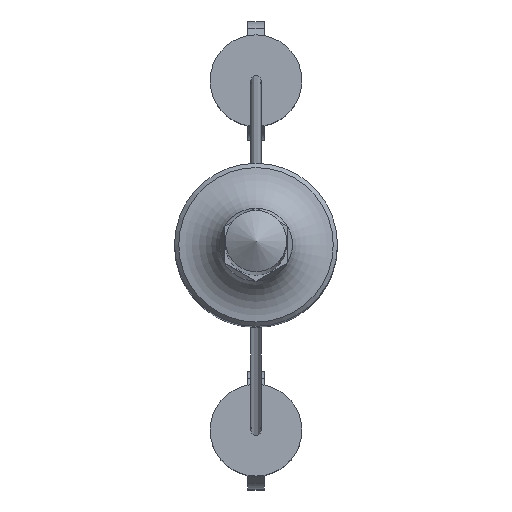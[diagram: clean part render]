
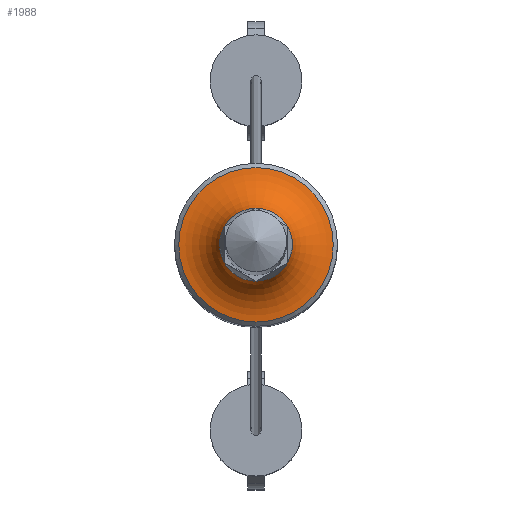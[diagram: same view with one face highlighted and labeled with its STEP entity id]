
A CAD part, top view. The second image highlights one B-rep face of the part: STEP entity #1988.
In plain terms, the highlighted toroidal (fillet/blend) face has major radius 4 mm and minor radius 2.378 mm.
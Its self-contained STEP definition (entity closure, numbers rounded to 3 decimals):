
#33 = CARTESIAN_POINT ( 'NONE',  ( 1.161, -1.371, -3.5 ) ) ;
#58 = CARTESIAN_POINT ( 'NONE',  ( -1.033, -1.47, -3.5 ) ) ;
#86 = CARTESIAN_POINT ( 'NONE',  ( 0.304, -1.771, -3.5 ) ) ;
#106 = CARTESIAN_POINT ( 'NONE',  ( 0.607, 1.691, -3.5 ) ) ;
#135 = AXIS2_PLACEMENT_3D ( 'NONE', #2228, #2425, #796 ) ;
#168 = CARTESIAN_POINT ( 'NONE',  ( 1.55, 0.895, -3.5 ) ) ;
#245 = CARTESIAN_POINT ( 'NONE',  ( 1.55, -0.895, -3.5 ) ) ;
#267 = CARTESIAN_POINT ( 'NONE',  ( 1.033, -1.47, -3.5 ) ) ;
#348 = DIRECTION ( 'NONE',  ( 0., 0., 1. ) ) ;
#361 = CARTESIAN_POINT ( 'NONE',  ( 1.55, 0.895, -3.5 ) ) ;
#374 = CARTESIAN_POINT ( 'NONE',  ( 1.686, 0.623, -3.5 ) ) ;
#380 = EDGE_CURVE ( 'NONE', #1840, #1840, #455, .T. ) ;
#409 = CARTESIAN_POINT ( 'NONE',  ( -1.55, 0.895, -3.5 ) ) ;
#430 = CARTESIAN_POINT ( 'NONE',  ( -1.79, -0.16, -3.5 ) ) ;
#431 = VERTEX_POINT ( 'NONE', #1417 ) ;
#440 = ORIENTED_EDGE ( 'NONE', *, *, #380, .T. ) ;
#455 = CIRCLE ( 'NONE', #960, 3.791 ) ;
#460 = CARTESIAN_POINT ( 'NONE',  ( 0.757, -1.63, -3.5 ) ) ;
#473 = CARTESIAN_POINT ( 'NONE',  ( -1.382, -1.148, -3.5 ) ) ;
#489 = CARTESIAN_POINT ( 'NONE',  ( -1.55, -0.895, -3.5 ) ) ;
#499 = B_SPLINE_CURVE_WITH_KNOTS ( 'NONE', 3,
 ( #361, #2040, #2645, #1634, #553, #2055, #106, #1375, #2239, #1432 ),
 .UNSPECIFIED., .F., .F.,
 ( 4, 2, 2, 2, 4 ),
 ( 0., 0.25, 0.5, 0.75, 1. ),
 .UNSPECIFIED. ) ;
#527 = FACE_OUTER_BOUND ( 'NONE', #868, .T. ) ;
#553 = CARTESIAN_POINT ( 'NONE',  ( 1.033, 1.47, -3.5 ) ) ;
#617 = EDGE_CURVE ( 'NONE', #431, #1838, #814, .T. ) ;
#623 = CARTESIAN_POINT ( 'NONE',  ( -1.686, -0.623, -3.5 ) ) ;
#629 = CARTESIAN_POINT ( 'NONE',  ( 1.625, -0.766, -3.5 ) ) ;
#660 = CARTESIAN_POINT ( 'NONE',  ( 0., 1.79, -3.5 ) ) ;
#675 = CARTESIAN_POINT ( 'NONE',  ( 1.382, -1.148, -3.5 ) ) ;
#686 = CARTESIAN_POINT ( 'NONE',  ( -1.476, -1.024, -3.5 ) ) ;
#690 = CARTESIAN_POINT ( 'NONE',  ( 0., -1.79, -3.5 ) ) ;
#697 = B_SPLINE_CURVE_WITH_KNOTS ( 'NONE', 3,
 ( #1670, #2516, #2545, #1477, #2322, #1007, #2296, #1459, #2713, #409 ),
 .UNSPECIFIED., .F., .F.,
 ( 4, 2, 2, 2, 4 ),
 ( 0., 0.25, 0.5, 0.75, 1. ),
 .UNSPECIFIED. ) ;
#704 = CARTESIAN_POINT ( 'NONE',  ( 1.55, 0.895, -3.5 ) ) ;
#765 = ORIENTED_EDGE ( 'NONE', *, *, #2336, .F. ) ;
#775 = DIRECTION ( 'NONE',  ( 1., 0., 0. ) ) ;
#796 = DIRECTION ( 'NONE',  ( 1., 0., 0. ) ) ;
#802 = CARTESIAN_POINT ( 'NONE',  ( -1.55, 0.895, -3.5 ) ) ;
#814 = B_SPLINE_CURVE_WITH_KNOTS ( 'NONE', 3,
 ( #690, #2586, #86, #1152, #460, #267, #33, #675, #2179, #1115 ),
 .UNSPECIFIED., .F., .F.,
 ( 4, 2, 2, 2, 4 ),
 ( 0., 0.25, 0.5, 0.75, 1. ),
 .UNSPECIFIED. ) ;
#817 = CARTESIAN_POINT ( 'NONE',  ( -1.79, 0.16, -3.5 ) ) ;
#824 = CARTESIAN_POINT ( 'NONE',  ( 1.79, -0.16, -3.5 ) ) ;
#853 = CARTESIAN_POINT ( 'NONE',  ( 1.686, -0.623, -3.5 ) ) ;
#868 = EDGE_LOOP ( 'NONE', ( #2074, #765, #2685, #1205, #2139, #1802 ) ) ;
#960 = AXIS2_PLACEMENT_3D ( 'NONE', #2293, #348, #775 ) ;
#1007 = CARTESIAN_POINT ( 'NONE',  ( -1.033, 1.47, -3.5 ) ) ;
#1035 = VERTEX_POINT ( 'NONE', #704 ) ;
#1045 = CARTESIAN_POINT ( 'NONE',  ( -1.625, 0.766, -3.5 ) ) ;
#1098 = CARTESIAN_POINT ( 'NONE',  ( -0.757, -1.63, -3.5 ) ) ;
#1115 = CARTESIAN_POINT ( 'NONE',  ( 1.55, -0.895, -3.5 ) ) ;
#1125 = CARTESIAN_POINT ( 'NONE',  ( -1.55, 0.895, -3.5 ) ) ;
#1128 = CARTESIAN_POINT ( 'NONE',  ( 0., -1.79, -3.5 ) ) ;
#1152 = CARTESIAN_POINT ( 'NONE',  ( 0.607, -1.691, -3.5 ) ) ;
#1205 = ORIENTED_EDGE ( 'NONE', *, *, #2180, .F. ) ;
#1259 = CARTESIAN_POINT ( 'NONE',  ( -1.768, -0.32, -3.5 ) ) ;
#1273 = CARTESIAN_POINT ( 'NONE',  ( 1.79, 0.16, -3.5 ) ) ;
#1277 = CARTESIAN_POINT ( 'NONE',  ( -1.55, -0.895, -3.5 ) ) ;
#1365 = B_SPLINE_CURVE_WITH_KNOTS ( 'NONE', 3,
 ( #802, #1045, #1906, #2294, #817, #430, #1259, #623, #2500, #2332 ),
 .UNSPECIFIED., .F., .F.,
 ( 4, 2, 2, 2, 4 ),
 ( 0., 0.25, 0.5, 0.75, 1. ),
 .UNSPECIFIED. ) ;
#1375 = CARTESIAN_POINT ( 'NONE',  ( 0.304, 1.771, -3.5 ) ) ;
#1393 = CARTESIAN_POINT ( 'NONE',  ( 3.791, 0., -4.991 ) ) ;
#1404 = B_SPLINE_CURVE_WITH_KNOTS ( 'NONE', 3,
 ( #245, #629, #853, #1952, #824, #1273, #1682, #374, #2751, #168 ),
 .UNSPECIFIED., .F., .F.,
 ( 4, 2, 2, 2, 4 ),
 ( 0., 0.25, 0.5, 0.75, 1. ),
 .UNSPECIFIED. ) ;
#1417 = CARTESIAN_POINT ( 'NONE',  ( 0., -1.79, -3.5 ) ) ;
#1432 = CARTESIAN_POINT ( 'NONE',  ( 0., 1.79, -3.5 ) ) ;
#1459 = CARTESIAN_POINT ( 'NONE',  ( -1.382, 1.148, -3.5 ) ) ;
#1477 = CARTESIAN_POINT ( 'NONE',  ( -0.607, 1.691, -3.5 ) ) ;
#1486 = VERTEX_POINT ( 'NONE', #1125 ) ;
#1546 = CARTESIAN_POINT ( 'NONE',  ( 1.55, -0.895, -3.5 ) ) ;
#1634 = CARTESIAN_POINT ( 'NONE',  ( 1.161, 1.371, -3.5 ) ) ;
#1670 = CARTESIAN_POINT ( 'NONE',  ( 0., 1.79, -3.5 ) ) ;
#1682 = CARTESIAN_POINT ( 'NONE',  ( 1.768, 0.32, -3.5 ) ) ;
#1691 = EDGE_CURVE ( 'NONE', #2116, #1486, #697, .T. ) ;
#1735 = CARTESIAN_POINT ( 'NONE',  ( -0.304, -1.771, -3.5 ) ) ;
#1802 = ORIENTED_EDGE ( 'NONE', *, *, #1691, .F. ) ;
#1838 = VERTEX_POINT ( 'NONE', #1546 ) ;
#1840 = VERTEX_POINT ( 'NONE', #1393 ) ;
#1862 = VERTEX_POINT ( 'NONE', #1277 ) ;
#1906 = CARTESIAN_POINT ( 'NONE',  ( -1.686, 0.623, -3.5 ) ) ;
#1952 = CARTESIAN_POINT ( 'NONE',  ( 1.768, -0.32, -3.5 ) ) ;
#1973 = CARTESIAN_POINT ( 'NONE',  ( -1.161, -1.371, -3.5 ) ) ;
#1988 = ADVANCED_FACE ( 'NONE', ( #2198, #527 ), #2087, .F. ) ;
#2021 = B_SPLINE_CURVE_WITH_KNOTS ( 'NONE', 3,
 ( #489, #686, #473, #1973, #58, #1098, #2162, #1735, #2600, #1128 ),
 .UNSPECIFIED., .F., .F.,
 ( 4, 2, 2, 2, 4 ),
 ( 0., 0.25, 0.5, 0.75, 1. ),
 .UNSPECIFIED. ) ;
#2040 = CARTESIAN_POINT ( 'NONE',  ( 1.476, 1.024, -3.5 ) ) ;
#2055 = CARTESIAN_POINT ( 'NONE',  ( 0.757, 1.63, -3.5 ) ) ;
#2074 = ORIENTED_EDGE ( 'NONE', *, *, #2745, .F. ) ;
#2087 = TOROIDAL_SURFACE ( 'NONE', #135, 4., 2.378 ) ;
#2116 = VERTEX_POINT ( 'NONE', #660 ) ;
#2139 = ORIENTED_EDGE ( 'NONE', *, *, #2371, .F. ) ;
#2162 = CARTESIAN_POINT ( 'NONE',  ( -0.607, -1.691, -3.5 ) ) ;
#2179 = CARTESIAN_POINT ( 'NONE',  ( 1.476, -1.024, -3.5 ) ) ;
#2180 = EDGE_CURVE ( 'NONE', #1862, #431, #2021, .T. ) ;
#2198 = FACE_OUTER_BOUND ( 'NONE', #2629, .T. ) ;
#2228 = CARTESIAN_POINT ( 'NONE',  ( 0., 0., -2.622 ) ) ;
#2239 = CARTESIAN_POINT ( 'NONE',  ( 0.149, 1.79, -3.5 ) ) ;
#2293 = CARTESIAN_POINT ( 'NONE',  ( 0., 0., -4.991 ) ) ;
#2294 = CARTESIAN_POINT ( 'NONE',  ( -1.768, 0.32, -3.5 ) ) ;
#2296 = CARTESIAN_POINT ( 'NONE',  ( -1.161, 1.371, -3.5 ) ) ;
#2322 = CARTESIAN_POINT ( 'NONE',  ( -0.757, 1.63, -3.5 ) ) ;
#2332 = CARTESIAN_POINT ( 'NONE',  ( -1.55, -0.895, -3.5 ) ) ;
#2336 = EDGE_CURVE ( 'NONE', #1838, #1035, #1404, .T. ) ;
#2371 = EDGE_CURVE ( 'NONE', #1486, #1862, #1365, .T. ) ;
#2425 = DIRECTION ( 'NONE',  ( 0., 0., 1. ) ) ;
#2500 = CARTESIAN_POINT ( 'NONE',  ( -1.625, -0.766, -3.5 ) ) ;
#2516 = CARTESIAN_POINT ( 'NONE',  ( -0.149, 1.79, -3.5 ) ) ;
#2545 = CARTESIAN_POINT ( 'NONE',  ( -0.304, 1.771, -3.5 ) ) ;
#2586 = CARTESIAN_POINT ( 'NONE',  ( 0.149, -1.79, -3.5 ) ) ;
#2600 = CARTESIAN_POINT ( 'NONE',  ( -0.149, -1.79, -3.5 ) ) ;
#2629 = EDGE_LOOP ( 'NONE', ( #440 ) ) ;
#2645 = CARTESIAN_POINT ( 'NONE',  ( 1.382, 1.148, -3.5 ) ) ;
#2685 = ORIENTED_EDGE ( 'NONE', *, *, #617, .F. ) ;
#2713 = CARTESIAN_POINT ( 'NONE',  ( -1.476, 1.024, -3.5 ) ) ;
#2745 = EDGE_CURVE ( 'NONE', #1035, #2116, #499, .T. ) ;
#2751 = CARTESIAN_POINT ( 'NONE',  ( 1.625, 0.766, -3.5 ) ) ;
